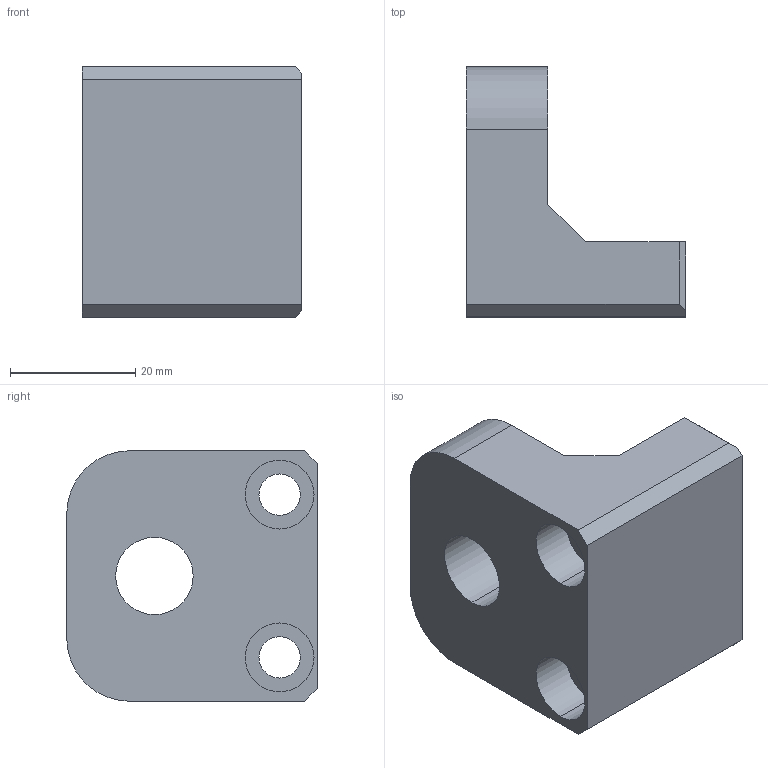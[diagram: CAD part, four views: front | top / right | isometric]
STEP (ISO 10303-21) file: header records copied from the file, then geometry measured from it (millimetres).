
FILE_DESCRIPTION (( 'STEP AP214' ), '1' );
FILE_NAME ('GZ29.03_V1气缸连接块.STEP', '2021-05-06T09:15:14', ( '微软中国' ), ( 'Microsoft' ), 'SwSTEP 2.0', 'SolidWorks 2017', '' );
FILE_SCHEMA (( 'AUTOMOTIVE_DESIGN' ));
Length unit declared in the file: millimetre
Products named in the file (1): GZ29.03_V1气缸连接块
Bounding box: 35 x 40 x 40 mm (x, y, z)
Volume: 26585.9 mm3; surface area: 8929.7 mm2
Topology: 1 solids, 1 shells, 27 faces, 69 edges, 46 vertices
Faces by surface type: plane 15, cylinder 12
Entity records: 895 total; most frequent: DIRECTION 149, CARTESIAN_POINT 143, ORIENTED_EDGE 138, EDGE_CURVE 69, AXIS2_PLACEMENT_3D 52, VERTEX_POINT 46, VECTOR 45, LINE 45
